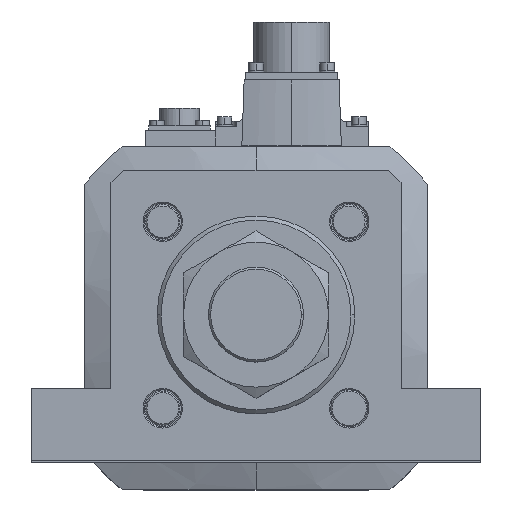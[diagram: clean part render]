
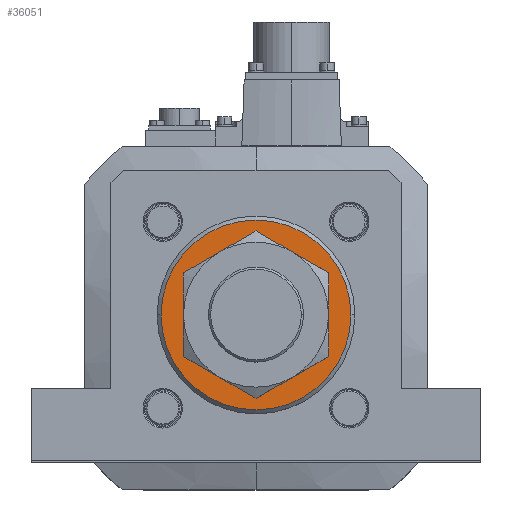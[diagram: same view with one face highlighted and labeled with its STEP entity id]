
A CAD part, top view. The second image highlights one B-rep face of the part: STEP entity #36051.
In plain terms, the highlighted planar face has unit normal (0, 0, 1).
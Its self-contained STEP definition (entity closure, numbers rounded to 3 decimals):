
#397 = AXIS2_PLACEMENT_3D ( 'NONE', #2398, #17055, #37880 ) ;
#469 = CIRCLE ( 'NONE', #34469, 36. ) ;
#597 = EDGE_CURVE ( 'NONE', #31152, #11467, #34561, .T. ) ;
#1318 = CARTESIAN_POINT ( 'NONE',  ( 23., 0., 446. ) ) ;
#2070 = AXIS2_PLACEMENT_3D ( 'NONE', #5185, #37654, #7765 ) ;
#2398 = CARTESIAN_POINT ( 'NONE',  ( 0., 0., 446. ) ) ;
#2830 = EDGE_LOOP ( 'NONE', ( #15223, #8618 ) ) ;
#3630 = CARTESIAN_POINT ( 'NONE',  ( 36., 0., 446. ) ) ;
#4992 = CARTESIAN_POINT ( 'NONE',  ( 0., 0., 446. ) ) ;
#5185 = CARTESIAN_POINT ( 'NONE',  ( 0., 0., 446. ) ) ;
#6242 = EDGE_CURVE ( 'NONE', #6648, #32361, #11115, .T. ) ;
#6648 = VERTEX_POINT ( 'NONE', #28455 ) ;
#7765 = DIRECTION ( 'NONE',  ( 1., 0., 0. ) ) ;
#8389 = ORIENTED_EDGE ( 'NONE', *, *, #6242, .T. ) ;
#8618 = ORIENTED_EDGE ( 'NONE', *, *, #597, .T. ) ;
#11115 = CIRCLE ( 'NONE', #12890, 23. ) ;
#11467 = VERTEX_POINT ( 'NONE', #35522 ) ;
#11999 = CARTESIAN_POINT ( 'NONE',  ( 0., 0., 446. ) ) ;
#12364 = DIRECTION ( 'NONE',  ( 1., 0., 0. ) ) ;
#12890 = AXIS2_PLACEMENT_3D ( 'NONE', #11999, #30033, #12364 ) ;
#15223 = ORIENTED_EDGE ( 'NONE', *, *, #26663, .T. ) ;
#16803 = DIRECTION ( 'NONE',  ( 1., 0., 0. ) ) ;
#17055 = DIRECTION ( 'NONE',  ( 0., 0., 1. ) ) ;
#17990 = FACE_OUTER_BOUND ( 'NONE', #2830, .T. ) ;
#18463 = FACE_BOUND ( 'NONE', #29687, .T. ) ;
#23004 = PLANE ( 'NONE',  #397 ) ;
#26663 = EDGE_CURVE ( 'NONE', #11467, #31152, #469, .T. ) ;
#28226 = CIRCLE ( 'NONE', #37594, 23. ) ;
#28455 = CARTESIAN_POINT ( 'NONE',  ( -23., 0., 446. ) ) ;
#28833 = DIRECTION ( 'NONE',  ( 1., 0., 0. ) ) ;
#28993 = DIRECTION ( 'NONE',  ( 0., 0., 1. ) ) ;
#29687 = EDGE_LOOP ( 'NONE', ( #36764, #8389 ) ) ;
#30033 = DIRECTION ( 'NONE',  ( 0., 0., -1. ) ) ;
#31152 = VERTEX_POINT ( 'NONE', #3630 ) ;
#31932 = EDGE_CURVE ( 'NONE', #32361, #6648, #28226, .T. ) ;
#31947 = DIRECTION ( 'NONE',  ( 0., 0., -1. ) ) ;
#32361 = VERTEX_POINT ( 'NONE', #1318 ) ;
#34395 = CARTESIAN_POINT ( 'NONE',  ( 0., 0., 446. ) ) ;
#34469 = AXIS2_PLACEMENT_3D ( 'NONE', #34395, #28993, #16803 ) ;
#34561 = CIRCLE ( 'NONE', #2070, 36. ) ;
#35522 = CARTESIAN_POINT ( 'NONE',  ( -36., 0., 446. ) ) ;
#36051 = ADVANCED_FACE ( 'NONE', ( #18463, #17990 ), #23004, .T. ) ;
#36764 = ORIENTED_EDGE ( 'NONE', *, *, #31932, .T. ) ;
#37594 = AXIS2_PLACEMENT_3D ( 'NONE', #4992, #31947, #28833 ) ;
#37654 = DIRECTION ( 'NONE',  ( 0., 0., 1. ) ) ;
#37880 = DIRECTION ( 'NONE',  ( 1., 0., 0. ) ) ;
